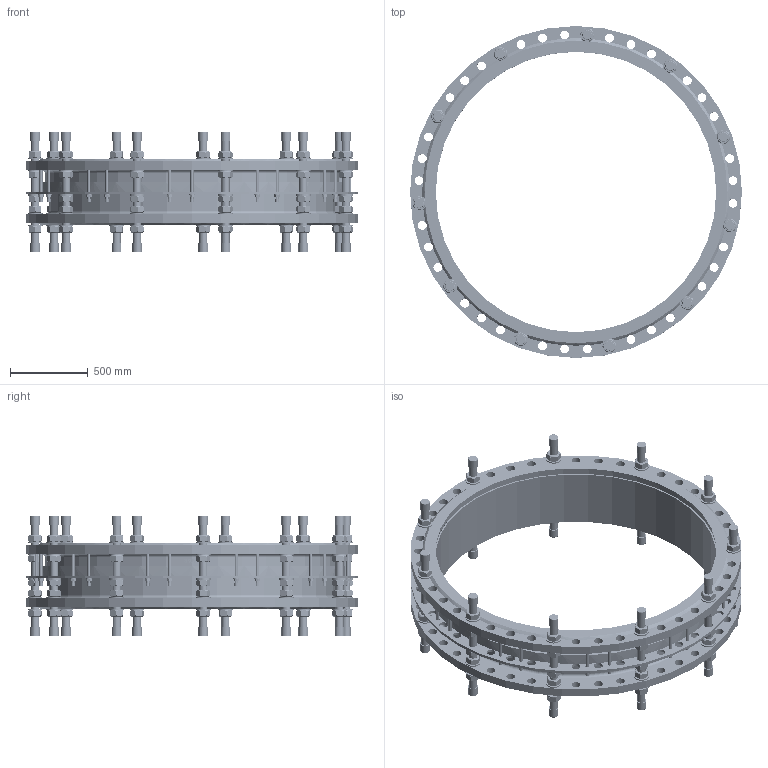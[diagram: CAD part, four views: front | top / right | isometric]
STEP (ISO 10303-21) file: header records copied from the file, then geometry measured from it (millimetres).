
FILE_DESCRIPTION(('STEP AP242'), '1');
FILE_NAME('Ìîíòàæíàÿ âñòàâêà', '', ('UNSPECIFIED'), ('UNSPECIFIED'), 'C3D Converter', 'C3D Toolkit', '');
FILE_SCHEMA(('AP242_MANAGED_MODEL_BASED_3D_ENGINEERING_MIM_LF { 1 0 10303 442 1 1 4 }'));
Length unit declared in the file: millimetre
Products named in the file (13): ШМ.М16.310; ШМ.М16.206
Assembly tree (235 placements, depth 2):
  (unnamed)
    (unnamed)
    (unnamed)
    (unnamed)
    (unnamed)
    (unnamed)  x55
    (unnamed)  x55
    ШМ.М16.310  x11
    (unnamed)  x22
    (unnamed)  x22
    (unnamed)  x22
    ШМ.М16.206  x22
    (unnamed)  x22
Bounding box: 2130 x 2130 x 770.4 mm (x, y, z)
Volume: 210749486.1 mm3; surface area: 18876965.4 mm2
Topology: 239 solids, 239 shells, 2024 faces, 4501 edges, 2896 vertices
Faces by surface type: plane 1037, cylinder 550, cone 380, torus 46, extrusion 11
Full cylindrical faces by diameter (mm): 20 x88, 21 x22, 23 x22, 24 x22, 33.221 x1, 37 x22, 52 x88, 54 x55, 57 x132, 62.4 x22, 96 x55, 1800 x2, 1836 x2, 1854 x2, 1890 x1, 1908 x1, 1927 x1, 1963 x1, 2130 x3
Entity records: 29619 total; most frequent: CARTESIAN_POINT 12869, DIRECTION 2636, ORIENTED_EDGE 1890, AXIS2_PLACEMENT_3D 1281, EDGE_CURVE 945, EDGE_LOOP 843, VERTEX_POINT 760, CIRCLE 714
